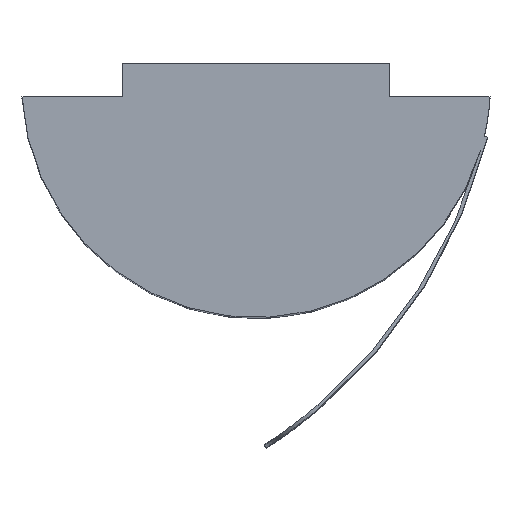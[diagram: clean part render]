
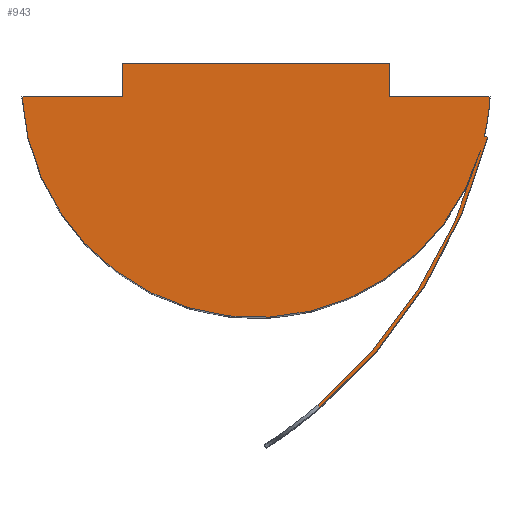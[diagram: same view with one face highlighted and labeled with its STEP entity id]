
A CAD part, top view. The second image highlights one B-rep face of the part: STEP entity #943.
In plain terms, the highlighted planar face has unit normal (0, 0, 1).
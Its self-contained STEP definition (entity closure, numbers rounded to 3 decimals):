
#175=CARTESIAN_POINT('',(-4.0,0.975,20.0));
#176=VERTEX_POINT('',#175);
#177=CARTESIAN_POINT('',(4.0,0.975,20.0));
#178=VERTEX_POINT('',#177);
#179=CARTESIAN_POINT('',(-4.0,0.975,20.0));
#180=DIRECTION('',(1.0,0.0,0.0));
#181=VECTOR('',#180,8.0);
#182=LINE('',#179,#181);
#183=EDGE_CURVE('',#176,#178,#182,.T.);
#354=CARTESIAN_POINT('',(1.857,-9.229,20.0));
#355=VERTEX_POINT('',#354);
#375=CARTESIAN_POINT('',(6.717,-1.624,20.0));
#376=VERTEX_POINT('',#375);
#377=CARTESIAN_POINT('',(-8.233,2.576,20.0));
#378=DIRECTION('',(0.0,0.0,-1.0));
#379=DIRECTION('',(-0.546,0.838,0.0));
#380=AXIS2_PLACEMENT_3D('',#377,#378,#379);
#381=CIRCLE('',#380,15.53);
#382=EDGE_CURVE('',#376,#355,#381,.T.);
#572=CARTESIAN_POINT('',(1.912,-9.314,20.0));
#573=VERTEX_POINT('',#572);
#593=CARTESIAN_POINT('',(1.912,-9.314,20.0));
#594=DIRECTION('',(-0.546,0.838,0.0));
#595=VECTOR('',#594,0.101);
#596=LINE('',#593,#595);
#597=EDGE_CURVE('',#573,#355,#596,.T.);
#676=CARTESIAN_POINT('',(6.927,-1.227,20.0));
#677=VERTEX_POINT('',#676);
#684=CARTESIAN_POINT('',(-8.233,2.576,20.0));
#685=DIRECTION('',(0.0,0.0,1.));
#686=DIRECTION('',(0.546,-0.838,0.0));
#687=AXIS2_PLACEMENT_3D('',#684,#685,#686);
#688=CIRCLE('',#687,15.63);
#689=EDGE_CURVE('',#573,#677,#688,.T.);
#713=CARTESIAN_POINT('',(6.83,-1.202,20.0));
#714=VERTEX_POINT('',#713);
#721=CARTESIAN_POINT('',(6.927,-1.227,20.0));
#722=DIRECTION('',(-0.97,0.243,0.0));
#723=VECTOR('',#722,0.1);
#724=LINE('',#721,#723);
#725=EDGE_CURVE('',#677,#714,#724,.T.);
#796=CARTESIAN_POINT('',(-7.,-0.025,20.0));
#797=VERTEX_POINT('',#796);
#798=CARTESIAN_POINT('',(0.0,0.387,20.0));
#799=DIRECTION('',(0.0,0.0,-1.));
#800=DIRECTION('',(-0.998,-0.059,0.0));
#801=AXIS2_PLACEMENT_3D('',#798,#799,#800);
#802=CIRCLE('',#801,7.012);
#803=EDGE_CURVE('',#376,#797,#802,.T.);
#825=CARTESIAN_POINT('',(7.,-0.025,20.0));
#826=VERTEX_POINT('',#825);
#833=CARTESIAN_POINT('',(0.0,0.387,20.0));
#834=DIRECTION('',(0.0,0.0,-1.));
#835=DIRECTION('',(-0.998,-0.059,0.0));
#836=AXIS2_PLACEMENT_3D('',#833,#834,#835);
#837=CIRCLE('',#836,7.012);
#838=EDGE_CURVE('',#826,#714,#837,.T.);
#848=CARTESIAN_POINT('',(4.0,-0.025,20.0));
#849=VERTEX_POINT('',#848);
#856=CARTESIAN_POINT('',(4.0,-0.025,20.0));
#857=DIRECTION('',(1.0,0.0,0.0));
#858=VECTOR('',#857,3.);
#859=LINE('',#856,#858);
#860=EDGE_CURVE('',#849,#826,#859,.T.);
#872=CARTESIAN_POINT('',(-4.0,-0.025,20.0));
#873=VERTEX_POINT('',#872);
#882=CARTESIAN_POINT('',(-7.,-0.025,20.0));
#883=DIRECTION('',(1.0,0.0,0.0));
#884=VECTOR('',#883,3.);
#885=LINE('',#882,#884);
#886=EDGE_CURVE('',#797,#873,#885,.T.);
#896=CARTESIAN_POINT('',(-4.0,-0.025,20.0));
#897=DIRECTION('',(0.0,1.0,0.0));
#898=VECTOR('',#897,1.);
#899=LINE('',#896,#898);
#900=EDGE_CURVE('',#873,#176,#899,.T.);
#913=CARTESIAN_POINT('',(4.0,0.975,20.0));
#914=DIRECTION('',(0.0,-1.0,0.0));
#915=VECTOR('',#914,1.);
#916=LINE('',#913,#915);
#917=EDGE_CURVE('',#178,#849,#916,.T.);
#925=CARTESIAN_POINT('',(0.0,0.475,20.0));
#926=DIRECTION('',(0.0,0.0,1.0));
#927=DIRECTION('',(1.0,0.0,0.0));
#928=AXIS2_PLACEMENT_3D('',#925,#926,#927);
#929=PLANE('',#928);
#930=ORIENTED_EDGE('',*,*,#597,.F.);
#931=ORIENTED_EDGE('',*,*,#689,.T.);
#932=ORIENTED_EDGE('',*,*,#725,.T.);
#933=ORIENTED_EDGE('',*,*,#838,.F.);
#934=ORIENTED_EDGE('',*,*,#860,.F.);
#935=ORIENTED_EDGE('',*,*,#917,.F.);
#936=ORIENTED_EDGE('',*,*,#183,.F.);
#937=ORIENTED_EDGE('',*,*,#900,.F.);
#938=ORIENTED_EDGE('',*,*,#886,.F.);
#939=ORIENTED_EDGE('',*,*,#803,.F.);
#940=ORIENTED_EDGE('',*,*,#382,.T.);
#941=EDGE_LOOP('',(#930,#931,#932,#933,#934,#935,#936,#937,#938,#939,#940));
#942=FACE_OUTER_BOUND('',#941,.T.);
#943=ADVANCED_FACE('',(#942),#929,.T.);
